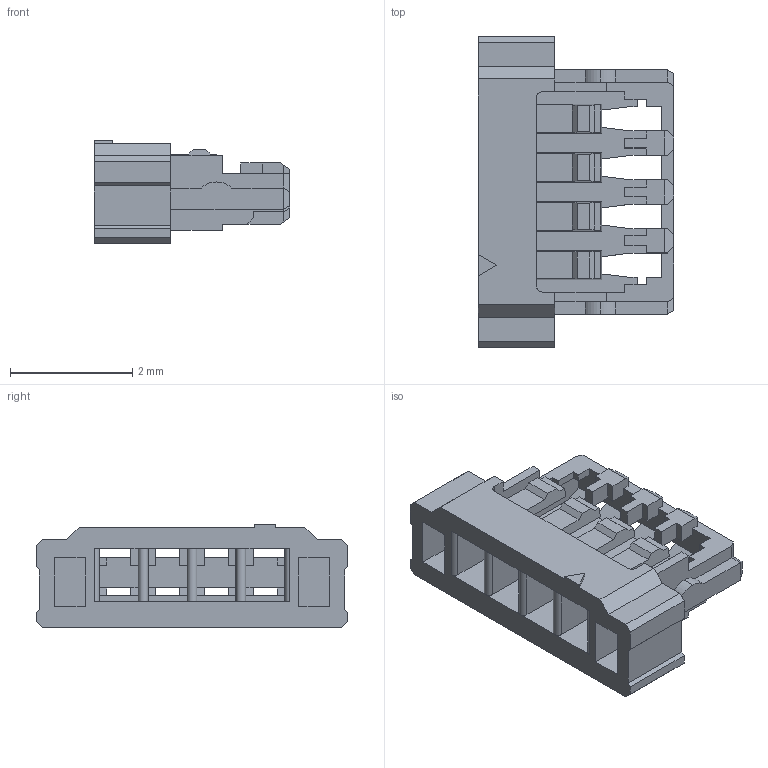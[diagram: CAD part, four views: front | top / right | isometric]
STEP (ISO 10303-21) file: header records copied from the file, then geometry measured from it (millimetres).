
FILE_DESCRIPTION((''),'2;1');
FILE_NAME('SCT0802H-04','2023-04-10T18:22:48',('Administrator'),(''),'CREO PARAMETRIC BY PTC INC, 2018050','CREO PARAMETRIC BY PTC INC, 2018050','');
FILE_SCHEMA(('CONFIG_CONTROL_DESIGN'));
Length unit declared in the file: millimetre
Products named in the file (1): SCT0802H-04
Bounding box: 3.2 x 5.1 x 1.7 mm (x, y, z)
Volume: 8.6 mm3; surface area: 77.9 mm2
Topology: 1 solids, 1 shells, 265 faces, 782 edges, 506 vertices
Faces by surface type: plane 246, cylinder 19
Entity records: 8702 total; most frequent: ORIENTED_EDGE 1564, CARTESIAN_POINT 1553, DIRECTION 1356, EDGE_CURVE 782, VECTOR 738, LINE 738, VERTEX_POINT 506, AXIS2_PLACEMENT_3D 309
